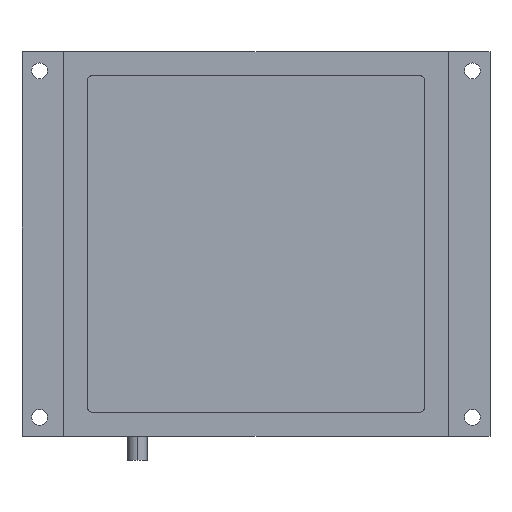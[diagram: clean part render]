
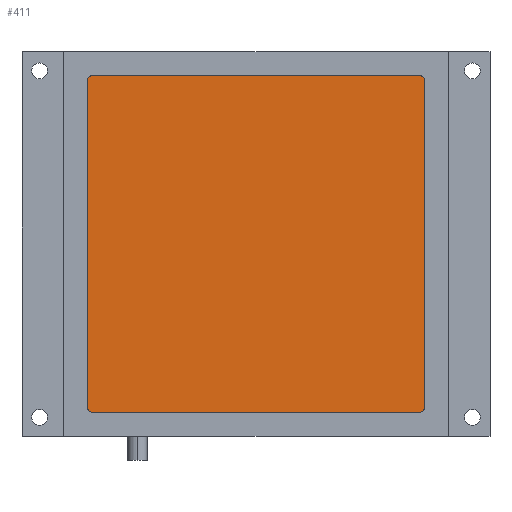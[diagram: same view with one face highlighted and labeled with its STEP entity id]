
A CAD part, top view. The second image highlights one B-rep face of the part: STEP entity #411.
In plain terms, the highlighted planar face has unit normal (0, 0, 1).
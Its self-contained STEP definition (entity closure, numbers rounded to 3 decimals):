
#11 = CARTESIAN_POINT ( 'NONE',  ( -35., -34., 18.9 ) ) ;
#25 = CIRCLE ( 'NONE', #363, 1. ) ;
#29 = DIRECTION ( 'NONE',  ( -1., 0., 0. ) ) ;
#61 = DIRECTION ( 'NONE',  ( -1., 0., 0. ) ) ;
#63 = VERTEX_POINT ( 'NONE', #145 ) ;
#71 = VERTEX_POINT ( 'NONE', #788 ) ;
#77 = DIRECTION ( 'NONE',  ( 1., 0., 0. ) ) ;
#82 = DIRECTION ( 'NONE',  ( -1., 0., 0. ) ) ;
#86 = EDGE_CURVE ( 'NONE', #457, #775, #940, .T. ) ;
#122 = EDGE_CURVE ( 'NONE', #71, #63, #725, .T. ) ;
#138 = ORIENTED_EDGE ( 'NONE', *, *, #264, .T. ) ;
#145 = CARTESIAN_POINT ( 'NONE',  ( 34., 35., 18.9 ) ) ;
#159 = CARTESIAN_POINT ( 'NONE',  ( -35., -35., 18.9 ) ) ;
#163 = VERTEX_POINT ( 'NONE', #1012 ) ;
#195 = CARTESIAN_POINT ( 'NONE',  ( 35., -35., 18.9 ) ) ;
#208 = DIRECTION ( 'NONE',  ( 0., 0., 1. ) ) ;
#215 = CARTESIAN_POINT ( 'NONE',  ( -35., -35., 18.9 ) ) ;
#216 = LINE ( 'NONE', #533, #1003 ) ;
#218 = ORIENTED_EDGE ( 'NONE', *, *, #122, .T. ) ;
#264 = EDGE_CURVE ( 'NONE', #644, #457, #397, .T. ) ;
#265 = DIRECTION ( 'NONE',  ( 0., 0., -1. ) ) ;
#268 = LINE ( 'NONE', #195, #282 ) ;
#270 = CARTESIAN_POINT ( 'NONE',  ( -34., -34., 18.9 ) ) ;
#279 = CARTESIAN_POINT ( 'NONE',  ( 34., 34., 18.9 ) ) ;
#282 = VECTOR ( 'NONE', #899, 1000. ) ;
#298 = EDGE_CURVE ( 'NONE', #544, #163, #885, .T. ) ;
#308 = CARTESIAN_POINT ( 'NONE',  ( -34., 34., 18.9 ) ) ;
#325 = CARTESIAN_POINT ( 'NONE',  ( -34., -35., 18.9 ) ) ;
#352 = EDGE_CURVE ( 'NONE', #775, #544, #25, .T. ) ;
#363 = AXIS2_PLACEMENT_3D ( 'NONE', #270, #915, #29 ) ;
#380 = VERTEX_POINT ( 'NONE', #650 ) ;
#397 = CIRCLE ( 'NONE', #658, 1. ) ;
#402 = PLANE ( 'NONE',  #680 ) ;
#408 = EDGE_CURVE ( 'NONE', #163, #380, #990, .T. ) ;
#411 = ADVANCED_FACE ( 'NONE', ( #846 ), #402, .F. ) ;
#415 = VECTOR ( 'NONE', #695, 1000. ) ;
#457 = VERTEX_POINT ( 'NONE', #607 ) ;
#516 = DIRECTION ( 'NONE',  ( 0., 0., 1. ) ) ;
#522 = VECTOR ( 'NONE', #77, 1000. ) ;
#533 = CARTESIAN_POINT ( 'NONE',  ( -35., 35., 18.9 ) ) ;
#542 = AXIS2_PLACEMENT_3D ( 'NONE', #841, #516, #826 ) ;
#544 = VERTEX_POINT ( 'NONE', #325 ) ;
#597 = ORIENTED_EDGE ( 'NONE', *, *, #748, .T. ) ;
#607 = CARTESIAN_POINT ( 'NONE',  ( -35., 34., 18.9 ) ) ;
#631 = ORIENTED_EDGE ( 'NONE', *, *, #891, .T. ) ;
#644 = VERTEX_POINT ( 'NONE', #672 ) ;
#650 = CARTESIAN_POINT ( 'NONE',  ( 35., -34., 18.9 ) ) ;
#658 = AXIS2_PLACEMENT_3D ( 'NONE', #308, #950, #82 ) ;
#672 = CARTESIAN_POINT ( 'NONE',  ( -34., 35., 18.9 ) ) ;
#680 = AXIS2_PLACEMENT_3D ( 'NONE', #968, #265, #732 ) ;
#683 = DIRECTION ( 'NONE',  ( -1., 0., 0. ) ) ;
#695 = DIRECTION ( 'NONE',  ( 0., -1., 0. ) ) ;
#699 = EDGE_LOOP ( 'NONE', ( #784, #752, #597, #218, #631, #138, #974, #730 ) ) ;
#725 = CIRCLE ( 'NONE', #969, 1. ) ;
#730 = ORIENTED_EDGE ( 'NONE', *, *, #352, .T. ) ;
#732 = DIRECTION ( 'NONE',  ( -1., 0., 0. ) ) ;
#748 = EDGE_CURVE ( 'NONE', #380, #71, #268, .T. ) ;
#752 = ORIENTED_EDGE ( 'NONE', *, *, #408, .T. ) ;
#775 = VERTEX_POINT ( 'NONE', #11 ) ;
#784 = ORIENTED_EDGE ( 'NONE', *, *, #298, .T. ) ;
#788 = CARTESIAN_POINT ( 'NONE',  ( 35., 34., 18.9 ) ) ;
#826 = DIRECTION ( 'NONE',  ( -1., 0., 0. ) ) ;
#841 = CARTESIAN_POINT ( 'NONE',  ( 34., -34., 18.9 ) ) ;
#846 = FACE_OUTER_BOUND ( 'NONE', #699, .T. ) ;
#885 = LINE ( 'NONE', #159, #522 ) ;
#891 = EDGE_CURVE ( 'NONE', #63, #644, #216, .T. ) ;
#899 = DIRECTION ( 'NONE',  ( 0., 1., 0. ) ) ;
#915 = DIRECTION ( 'NONE',  ( 0., 0., 1. ) ) ;
#940 = LINE ( 'NONE', #215, #415 ) ;
#950 = DIRECTION ( 'NONE',  ( 0., 0., 1. ) ) ;
#968 = CARTESIAN_POINT ( 'NONE',  ( 0., 0., 18.9 ) ) ;
#969 = AXIS2_PLACEMENT_3D ( 'NONE', #279, #208, #61 ) ;
#974 = ORIENTED_EDGE ( 'NONE', *, *, #86, .T. ) ;
#990 = CIRCLE ( 'NONE', #542, 1. ) ;
#1003 = VECTOR ( 'NONE', #683, 1000. ) ;
#1012 = CARTESIAN_POINT ( 'NONE',  ( 34., -35., 18.9 ) ) ;
